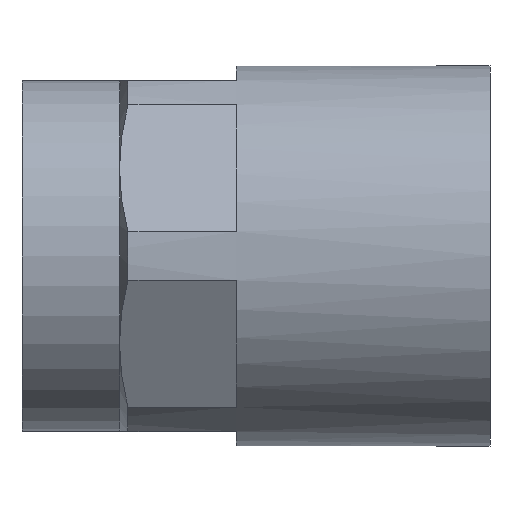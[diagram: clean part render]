
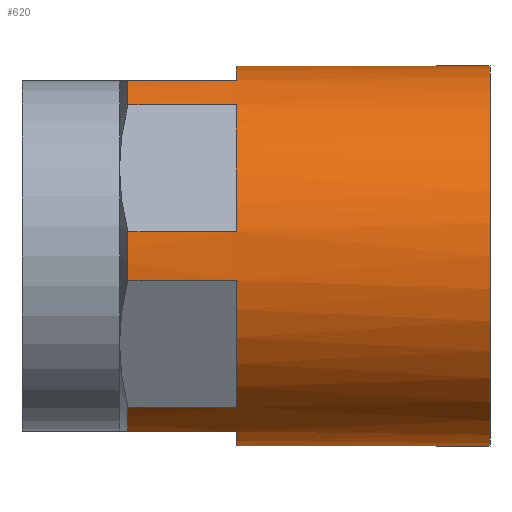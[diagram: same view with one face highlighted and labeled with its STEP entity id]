
A CAD part, front view. The second image highlights one B-rep face of the part: STEP entity #620.
In plain terms, the highlighted cylindrical face has radius 9.75 mm (diameter 19.5 mm), a full revolution.
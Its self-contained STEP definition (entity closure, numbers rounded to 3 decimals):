
#121=CARTESIAN_POINT('',(24.,9.75,0.0));
#122=VERTEX_POINT('',#121);
#123=CARTESIAN_POINT('',(24.,0.,0.0));
#124=DIRECTION('',(1.0,0.0,0.0));
#125=DIRECTION('',(0.0,1.0,0.0));
#126=AXIS2_PLACEMENT_3D('',#123,#124,#125);
#127=CIRCLE('',#126,9.75);
#128=EDGE_CURVE('',#122,#122,#127,.T.);
#141=CARTESIAN_POINT('',(11.0,-5.919,7.748));
#142=VERTEX_POINT('',#141);
#143=CARTESIAN_POINT('',(11.0,-9.669,1.252));
#144=VERTEX_POINT('',#143);
#145=CARTESIAN_POINT('',(11.,0.,0.0));
#146=DIRECTION('',(1.0,0.0,0.0));
#147=DIRECTION('',(0.0,1.0,0.0));
#148=AXIS2_PLACEMENT_3D('',#145,#146,#147);
#149=CIRCLE('',#148,9.75);
#150=EDGE_CURVE('',#142,#144,#149,.T.);
#166=CARTESIAN_POINT('',(11.0,-9.669,-1.252));
#167=VERTEX_POINT('',#166);
#168=CARTESIAN_POINT('',(11.0,-5.919,-7.748));
#169=VERTEX_POINT('',#168);
#170=CARTESIAN_POINT('',(11.,0.,0.0));
#171=DIRECTION('',(1.0,0.0,0.0));
#172=DIRECTION('',(0.0,1.0,0.0));
#173=AXIS2_PLACEMENT_3D('',#170,#171,#172);
#174=CIRCLE('',#173,9.75);
#175=EDGE_CURVE('',#167,#169,#174,.T.);
#191=CARTESIAN_POINT('',(11.0,-3.75,-9.0));
#192=VERTEX_POINT('',#191);
#193=CARTESIAN_POINT('',(11.0,3.75,-9.0));
#194=VERTEX_POINT('',#193);
#195=CARTESIAN_POINT('',(11.,0.,0.0));
#196=DIRECTION('',(1.0,0.0,0.0));
#197=DIRECTION('',(0.0,1.0,0.0));
#198=AXIS2_PLACEMENT_3D('',#195,#196,#197);
#199=CIRCLE('',#198,9.75);
#200=EDGE_CURVE('',#192,#194,#199,.T.);
#216=CARTESIAN_POINT('',(11.0,5.919,-7.748));
#217=VERTEX_POINT('',#216);
#218=CARTESIAN_POINT('',(11.0,9.669,-1.252));
#219=VERTEX_POINT('',#218);
#220=CARTESIAN_POINT('',(11.,0.,0.0));
#221=DIRECTION('',(1.0,0.0,0.0));
#222=DIRECTION('',(0.0,1.0,0.0));
#223=AXIS2_PLACEMENT_3D('',#220,#221,#222);
#224=CIRCLE('',#223,9.75);
#225=EDGE_CURVE('',#217,#219,#224,.T.);
#241=CARTESIAN_POINT('',(11.0,9.669,1.252));
#242=VERTEX_POINT('',#241);
#243=CARTESIAN_POINT('',(11.0,5.919,7.748));
#244=VERTEX_POINT('',#243);
#245=CARTESIAN_POINT('',(11.,0.,0.0));
#246=DIRECTION('',(1.0,0.0,0.0));
#247=DIRECTION('',(0.0,1.0,0.0));
#248=AXIS2_PLACEMENT_3D('',#245,#246,#247);
#249=CIRCLE('',#248,9.75);
#250=EDGE_CURVE('',#242,#244,#249,.T.);
#266=CARTESIAN_POINT('',(5.433,9.669,1.252));
#267=VERTEX_POINT('',#266);
#268=CARTESIAN_POINT('',(5.433,9.669,1.252));
#269=DIRECTION('',(1.0,0.0,0.0));
#270=VECTOR('',#269,5.567);
#271=LINE('',#268,#270);
#272=EDGE_CURVE('',#267,#242,#271,.T.);
#289=CARTESIAN_POINT('',(5.433,5.919,7.748));
#290=VERTEX_POINT('',#289);
#304=CARTESIAN_POINT('',(11.0,5.919,7.748));
#305=DIRECTION('',(-1.0,0.0,0.0));
#306=VECTOR('',#305,5.567);
#307=LINE('',#304,#306);
#308=EDGE_CURVE('',#244,#290,#307,.T.);
#319=CARTESIAN_POINT('',(5.433,5.919,-7.748));
#320=VERTEX_POINT('',#319);
#321=CARTESIAN_POINT('',(5.433,5.919,-7.748));
#322=DIRECTION('',(1.0,0.0,0.0));
#323=VECTOR('',#322,5.567);
#324=LINE('',#321,#323);
#325=EDGE_CURVE('',#320,#217,#324,.T.);
#342=CARTESIAN_POINT('',(5.433,9.669,-1.252));
#343=VERTEX_POINT('',#342);
#357=CARTESIAN_POINT('',(11.0,9.669,-1.252));
#358=DIRECTION('',(-1.0,0.0,0.0));
#359=VECTOR('',#358,5.567);
#360=LINE('',#357,#359);
#361=EDGE_CURVE('',#219,#343,#360,.T.);
#372=CARTESIAN_POINT('',(5.433,-3.75,-9.));
#373=VERTEX_POINT('',#372);
#374=CARTESIAN_POINT('',(5.433,-3.75,-9.));
#375=DIRECTION('',(1.0,0.0,0.0));
#376=VECTOR('',#375,5.567);
#377=LINE('',#374,#376);
#378=EDGE_CURVE('',#373,#192,#377,.T.);
#395=CARTESIAN_POINT('',(5.433,3.75,-9.));
#396=VERTEX_POINT('',#395);
#410=CARTESIAN_POINT('',(11.0,3.75,-9.));
#411=DIRECTION('',(-1.0,0.0,0.0));
#412=VECTOR('',#411,5.567);
#413=LINE('',#410,#412);
#414=EDGE_CURVE('',#194,#396,#413,.T.);
#425=CARTESIAN_POINT('',(5.433,-9.669,-1.252));
#426=VERTEX_POINT('',#425);
#427=CARTESIAN_POINT('',(5.433,-9.669,-1.252));
#428=DIRECTION('',(1.0,0.0,0.0));
#429=VECTOR('',#428,5.567);
#430=LINE('',#427,#429);
#431=EDGE_CURVE('',#426,#167,#430,.T.);
#448=CARTESIAN_POINT('',(5.433,-5.919,-7.748));
#449=VERTEX_POINT('',#448);
#463=CARTESIAN_POINT('',(11.0,-5.919,-7.748));
#464=DIRECTION('',(-1.0,0.0,0.0));
#465=VECTOR('',#464,5.567);
#466=LINE('',#463,#465);
#467=EDGE_CURVE('',#169,#449,#466,.T.);
#478=CARTESIAN_POINT('',(5.433,-5.919,7.748));
#479=VERTEX_POINT('',#478);
#480=CARTESIAN_POINT('',(5.433,-5.919,7.748));
#481=DIRECTION('',(1.0,0.0,0.0));
#482=VECTOR('',#481,5.567);
#483=LINE('',#480,#482);
#484=EDGE_CURVE('',#479,#142,#483,.T.);
#501=CARTESIAN_POINT('',(5.433,-9.669,1.252));
#502=VERTEX_POINT('',#501);
#516=CARTESIAN_POINT('',(11.0,-9.669,1.252));
#517=DIRECTION('',(-1.0,0.0,0.0));
#518=VECTOR('',#517,5.567);
#519=LINE('',#516,#518);
#520=EDGE_CURVE('',#144,#502,#519,.T.);
#526=CARTESIAN_POINT('',(17.5,0.,0.0));
#527=DIRECTION('',(1.0,0.,0.0));
#528=DIRECTION('',(0.0,1.0,0.0));
#529=AXIS2_PLACEMENT_3D('',#526,#527,#528);
#530=CYLINDRICAL_SURFACE('',#529,9.75);
#531=ORIENTED_EDGE('',*,*,#128,.F.);
#532=EDGE_LOOP('',(#531));
#533=FACE_OUTER_BOUND('',#532,.T.);
#534=ORIENTED_EDGE('',*,*,#272,.T.);
#535=ORIENTED_EDGE('',*,*,#250,.T.);
#536=ORIENTED_EDGE('',*,*,#308,.T.);
#537=CARTESIAN_POINT('',(5.433,3.75,9.));
#538=VERTEX_POINT('',#537);
#539=CARTESIAN_POINT('',(5.433,0.,0.0));
#540=DIRECTION('',(1.0,0.0,0.0));
#541=DIRECTION('',(0.0,1.0,0.0));
#542=AXIS2_PLACEMENT_3D('',#539,#540,#541);
#543=CIRCLE('',#542,9.75);
#544=EDGE_CURVE('',#290,#538,#543,.T.);
#545=ORIENTED_EDGE('',*,*,#544,.T.);
#546=CARTESIAN_POINT('',(11.0,3.75,9.));
#547=VERTEX_POINT('',#546);
#548=CARTESIAN_POINT('',(5.433,3.75,9.));
#549=DIRECTION('',(1.0,0.0,0.0));
#550=VECTOR('',#549,5.567);
#551=LINE('',#548,#550);
#552=EDGE_CURVE('',#538,#547,#551,.T.);
#553=ORIENTED_EDGE('',*,*,#552,.T.);
#554=CARTESIAN_POINT('',(11.0,-3.75,9.0));
#555=VERTEX_POINT('',#554);
#556=CARTESIAN_POINT('',(11.0,0.,0.0));
#557=DIRECTION('',(1.0,0.0,0.0));
#558=DIRECTION('',(0.0,1.0,0.0));
#559=AXIS2_PLACEMENT_3D('',#556,#557,#558);
#560=CIRCLE('',#559,9.75);
#561=EDGE_CURVE('',#547,#555,#560,.T.);
#562=ORIENTED_EDGE('',*,*,#561,.T.);
#563=CARTESIAN_POINT('',(5.433,-3.75,9.0));
#564=VERTEX_POINT('',#563);
#565=CARTESIAN_POINT('',(11.0,-3.75,9.0));
#566=DIRECTION('',(-1.0,0.0,0.0));
#567=VECTOR('',#566,5.567);
#568=LINE('',#565,#567);
#569=EDGE_CURVE('',#555,#564,#568,.T.);
#570=ORIENTED_EDGE('',*,*,#569,.T.);
#571=CARTESIAN_POINT('',(5.433,0.,0.0));
#572=DIRECTION('',(1.0,0.0,0.0));
#573=DIRECTION('',(0.0,1.0,0.0));
#574=AXIS2_PLACEMENT_3D('',#571,#572,#573);
#575=CIRCLE('',#574,9.75);
#576=EDGE_CURVE('',#564,#479,#575,.T.);
#577=ORIENTED_EDGE('',*,*,#576,.T.);
#578=ORIENTED_EDGE('',*,*,#484,.T.);
#579=ORIENTED_EDGE('',*,*,#150,.T.);
#580=ORIENTED_EDGE('',*,*,#520,.T.);
#581=CARTESIAN_POINT('',(5.433,0.,0.0));
#582=DIRECTION('',(1.0,0.0,0.0));
#583=DIRECTION('',(0.0,1.0,0.0));
#584=AXIS2_PLACEMENT_3D('',#581,#582,#583);
#585=CIRCLE('',#584,9.75);
#586=EDGE_CURVE('',#502,#426,#585,.T.);
#587=ORIENTED_EDGE('',*,*,#586,.T.);
#588=ORIENTED_EDGE('',*,*,#431,.T.);
#589=ORIENTED_EDGE('',*,*,#175,.T.);
#590=ORIENTED_EDGE('',*,*,#467,.T.);
#591=CARTESIAN_POINT('',(5.433,0.,0.0));
#592=DIRECTION('',(1.0,0.0,0.0));
#593=DIRECTION('',(0.0,1.0,0.0));
#594=AXIS2_PLACEMENT_3D('',#591,#592,#593);
#595=CIRCLE('',#594,9.75);
#596=EDGE_CURVE('',#449,#373,#595,.T.);
#597=ORIENTED_EDGE('',*,*,#596,.T.);
#598=ORIENTED_EDGE('',*,*,#378,.T.);
#599=ORIENTED_EDGE('',*,*,#200,.T.);
#600=ORIENTED_EDGE('',*,*,#414,.T.);
#601=CARTESIAN_POINT('',(5.433,0.,0.0));
#602=DIRECTION('',(1.0,0.0,0.0));
#603=DIRECTION('',(0.0,1.0,0.0));
#604=AXIS2_PLACEMENT_3D('',#601,#602,#603);
#605=CIRCLE('',#604,9.75);
#606=EDGE_CURVE('',#396,#320,#605,.T.);
#607=ORIENTED_EDGE('',*,*,#606,.T.);
#608=ORIENTED_EDGE('',*,*,#325,.T.);
#609=ORIENTED_EDGE('',*,*,#225,.T.);
#610=ORIENTED_EDGE('',*,*,#361,.T.);
#611=CARTESIAN_POINT('',(5.433,0.,0.0));
#612=DIRECTION('',(1.0,0.0,0.0));
#613=DIRECTION('',(0.0,1.0,0.0));
#614=AXIS2_PLACEMENT_3D('',#611,#612,#613);
#615=CIRCLE('',#614,9.75);
#616=EDGE_CURVE('',#343,#267,#615,.T.);
#617=ORIENTED_EDGE('',*,*,#616,.T.);
#618=EDGE_LOOP('',(#534,#535,#536,#545,#553,#562,#570,#577,#578,#579,#580,#587,#588,#589,#590,#597,#598,#599,#600,#607,#608,#609,#610,#617));
#619=FACE_BOUND('',#618,.T.);
#620=ADVANCED_FACE('',(#533,#619),#530,.T.);
